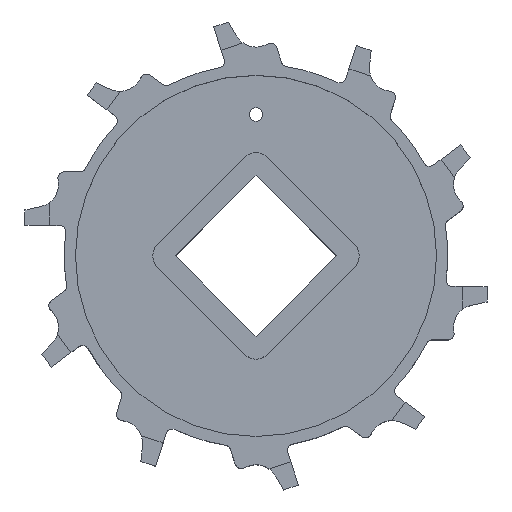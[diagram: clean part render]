
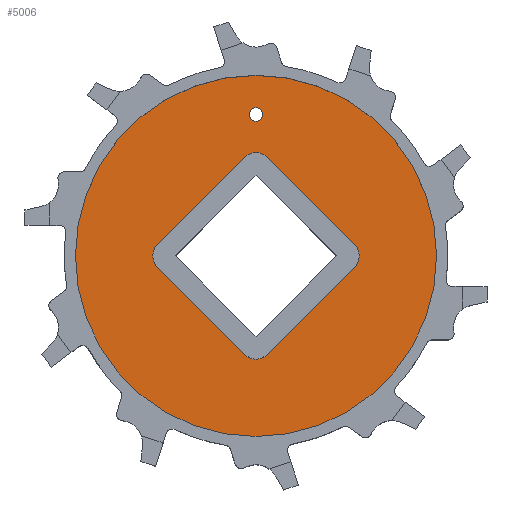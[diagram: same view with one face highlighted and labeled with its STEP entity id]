
A CAD part, top view. The second image highlights one B-rep face of the part: STEP entity #5006.
In plain terms, the highlighted planar face has unit normal (0, 0, 1).
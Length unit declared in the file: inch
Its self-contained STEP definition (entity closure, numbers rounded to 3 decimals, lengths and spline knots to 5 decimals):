
#1710=CARTESIAN_POINT('',(0.,0.,0.092));
#1711=DIRECTION('',(0.,0.,1.));
#1712=DIRECTION('',(1.,0.,0.));
#1713=AXIS2_PLACEMENT_3D('',#1710,#1711,#1712);
#1754=CARTESIAN_POINT('',(0.,0.,0.092));
#1755=DIRECTION('',(0.,0.,1.));
#1756=DIRECTION('',(-1.,0.,0.));
#1757=AXIS2_PLACEMENT_3D('',#1754,#1755,#1756);
#1763=DIRECTION('',(0.707,-0.707,0.));
#1764=VECTOR('',#1763,1.71);
#1765=CARTESIAN_POINT('',(-1.36472,-0.15556,0.092));
#1766=LINE('',#1765,#1764);
#1767=DIRECTION('',(0.707,0.707,0.));
#1768=VECTOR('',#1767,1.71);
#1769=CARTESIAN_POINT('',(0.15556,-1.36472,0.092));
#1770=LINE('',#1769,#1768);
#1771=DIRECTION('',(-0.707,0.707,0.));
#1772=VECTOR('',#1771,1.71);
#1773=CARTESIAN_POINT('',(1.36472,0.15556,0.092));
#1774=LINE('',#1773,#1772);
#1775=DIRECTION('',(-0.707,-0.707,0.));
#1776=VECTOR('',#1775,1.71);
#1777=CARTESIAN_POINT('',(-0.15556,1.36472,0.092));
#1778=LINE('',#1777,#1776);
#1779=CARTESIAN_POINT('',(0.,1.96,0.092));
#1780=DIRECTION('',(0.,0.,-1.));
#1781=DIRECTION('',(-1.,0.,0.));
#1782=AXIS2_PLACEMENT_3D('',#1779,#1780,#1781);
#1784=CARTESIAN_POINT('',(0.,1.96,0.092));
#1785=DIRECTION('',(0.,0.,-1.));
#1786=DIRECTION('',(1.,0.,0.));
#1787=AXIS2_PLACEMENT_3D('',#1784,#1785,#1786);
#1805=CARTESIAN_POINT('',(-1.20915,0.,0.092));
#1806=DIRECTION('',(0.,0.,-1.));
#1807=DIRECTION('',(-0.707,-0.707,0.));
#1808=AXIS2_PLACEMENT_3D('',#1805,#1806,#1807);
#1826=CARTESIAN_POINT('',(0.,1.20915,0.092));
#1827=DIRECTION('',(0.,0.,-1.));
#1828=DIRECTION('',(-0.707,0.707,0.));
#1829=AXIS2_PLACEMENT_3D('',#1826,#1827,#1828);
#1930=CARTESIAN_POINT('',(0.,-1.20915,0.092));
#1931=DIRECTION('',(0.,0.,-1.));
#1932=DIRECTION('',(0.707,-0.707,0.));
#1933=AXIS2_PLACEMENT_3D('',#1930,#1931,#1932);
#1987=CARTESIAN_POINT('',(1.20915,0.,0.092));
#1988=DIRECTION('',(0.,0.,-1.));
#1989=DIRECTION('',(0.707,0.707,0.));
#1990=AXIS2_PLACEMENT_3D('',#1987,#1988,#1989);
#2461=CARTESIAN_POINT('',(-0.09375,1.96,0.092));
#2463=VERTEX_POINT('',#2461);
#2465=CARTESIAN_POINT('',(0.09375,1.96,0.092));
#2467=VERTEX_POINT('',#2465);
#2561=CARTESIAN_POINT('',(2.5,0.,0.092));
#2562=CARTESIAN_POINT('',(-2.5,0.,0.092));
#2563=VERTEX_POINT('',#2561);
#2564=VERTEX_POINT('',#2562);
#2566=CARTESIAN_POINT('',(-1.36472,0.15556,0.092));
#2568=VERTEX_POINT('',#2566);
#2571=CARTESIAN_POINT('',(-1.36472,-0.15556,0.092));
#2572=VERTEX_POINT('',#2571);
#2582=CARTESIAN_POINT('',(-0.15556,-1.36472,0.092));
#2584=VERTEX_POINT('',#2582);
#2587=CARTESIAN_POINT('',(0.15556,-1.36472,0.092));
#2588=VERTEX_POINT('',#2587);
#2606=CARTESIAN_POINT('',(1.36472,-0.15556,0.092));
#2608=VERTEX_POINT('',#2606);
#2611=CARTESIAN_POINT('',(1.36472,0.15556,0.092));
#2612=VERTEX_POINT('',#2611);
#2614=CARTESIAN_POINT('',(0.15556,1.36472,0.092));
#2616=VERTEX_POINT('',#2614);
#2619=CARTESIAN_POINT('',(-0.15556,1.36472,0.092));
#2620=VERTEX_POINT('',#2619);
#4973=CARTESIAN_POINT('',(0.,0.,0.092));
#4974=DIRECTION('',(0.,0.,1.));
#4975=DIRECTION('',(1.,0.,0.));
#4976=AXIS2_PLACEMENT_3D('',#4973,#4974,#4975);
#4977=PLANE('',#4976);
#4978=ORIENTED_EDGE('',*,*,#4903,.F.);
#4979=ORIENTED_EDGE('',*,*,#4965,.F.);
#4980=EDGE_LOOP('',(#4978,#4979));
#4981=FACE_OUTER_BOUND('',#4980,.F.);
#4983=ORIENTED_EDGE('',*,*,#4982,.T.);
#4985=ORIENTED_EDGE('',*,*,#4984,.F.);
#4987=ORIENTED_EDGE('',*,*,#4986,.T.);
#4989=ORIENTED_EDGE('',*,*,#4988,.F.);
#4991=ORIENTED_EDGE('',*,*,#4990,.T.);
#4993=ORIENTED_EDGE('',*,*,#4992,.F.);
#4995=ORIENTED_EDGE('',*,*,#4994,.T.);
#4997=ORIENTED_EDGE('',*,*,#4996,.F.);
#4998=EDGE_LOOP('',(#4983,#4985,#4987,#4989,#4991,#4993,#4995,#4997));
#4999=FACE_BOUND('',#4998,.F.);
#5001=ORIENTED_EDGE('',*,*,#5000,.F.);
#5003=ORIENTED_EDGE('',*,*,#5002,.F.);
#5004=EDGE_LOOP('',(#5001,#5003));
#5005=FACE_BOUND('',#5004,.F.);
#5006=ADVANCED_FACE('',(#4981,#4999,#5005),#4977,.T.);
#1714=CIRCLE('',#1713,2.5);
#1758=CIRCLE('',#1757,2.5);
#1783=CIRCLE('',#1782,0.09375);
#1788=CIRCLE('',#1787,0.09375);
#1809=CIRCLE('',#1808,0.22);
#1830=CIRCLE('',#1829,0.22);
#1934=CIRCLE('',#1933,0.22);
#1991=CIRCLE('',#1990,0.22);
#4903=EDGE_CURVE('',#2563,#2564,#1714,.T.);
#4965=EDGE_CURVE('',#2564,#2563,#1758,.T.);
#4982=EDGE_CURVE('',#2572,#2584,#1766,.T.);
#4984=EDGE_CURVE('',#2588,#2584,#1934,.T.);
#4986=EDGE_CURVE('',#2588,#2608,#1770,.T.);
#4988=EDGE_CURVE('',#2612,#2608,#1991,.T.);
#4990=EDGE_CURVE('',#2612,#2616,#1774,.T.);
#4992=EDGE_CURVE('',#2620,#2616,#1830,.T.);
#4994=EDGE_CURVE('',#2620,#2568,#1778,.T.);
#4996=EDGE_CURVE('',#2572,#2568,#1809,.T.);
#5000=EDGE_CURVE('',#2463,#2467,#1783,.T.);
#5002=EDGE_CURVE('',#2467,#2463,#1788,.T.);
